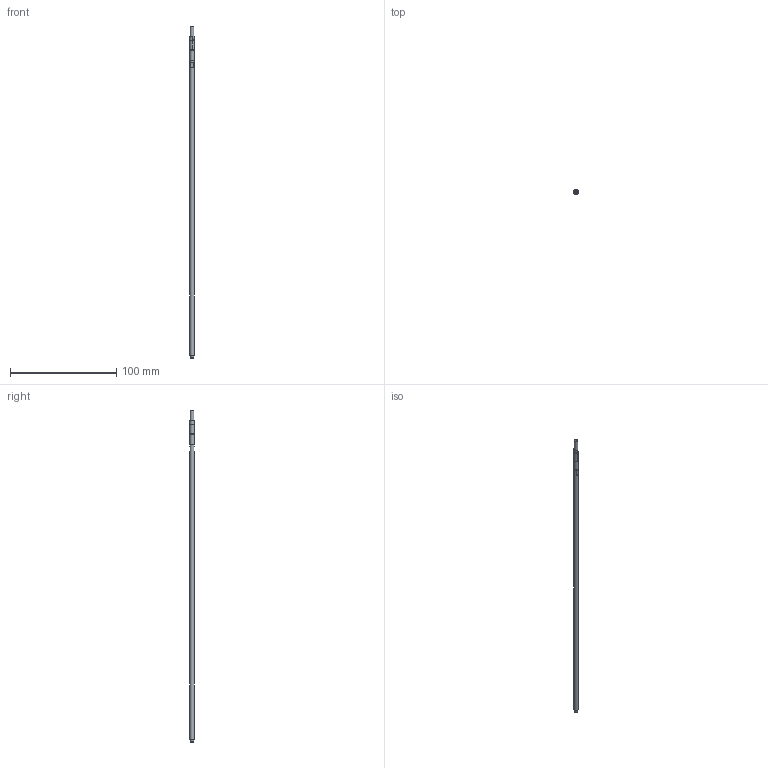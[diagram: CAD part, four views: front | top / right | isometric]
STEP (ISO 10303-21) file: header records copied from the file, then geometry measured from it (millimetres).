
FILE_DESCRIPTION(('STEP AP214'),'1');
FILE_NAME('LC-04P300-CON SEDE.stp','2025-10-28T10:56:49',(' '),(' '),'Spatial InterOp 3D',' ',' ');
FILE_SCHEMA(('AUTOMOTIVE_DESIGN { 1 0 10303 214 1 1 1 1 }'));
Length unit declared in the file: metre
Products named in the file (3): LC-04P300; LC-04P300-SEDE
Bounding box: 5 x 5 x 312.93 mm (x, y, z)
Volume: 2816.3 mm3; surface area: 6158.2 mm2
Topology: 1 solids, 3 shells, 23 faces, 48 edges, 33 vertices
Faces by surface type: plane 11, cylinder 7, cone 3, sphere 1, torus 1
Full cylindrical faces by diameter (mm): 2 x1, 3.3 x1, 3.8 x1, 4 x3
Entity records: 809 total; most frequent: DIRECTION 110, CARTESIAN_POINT 89, ORIENTED_EDGE 60, AXIS2_PLACEMENT_3D 50, EDGE_LOOP 41, EDGE_CURVE 33, VERTEX_POINT 29, STYLED_ITEM 27
